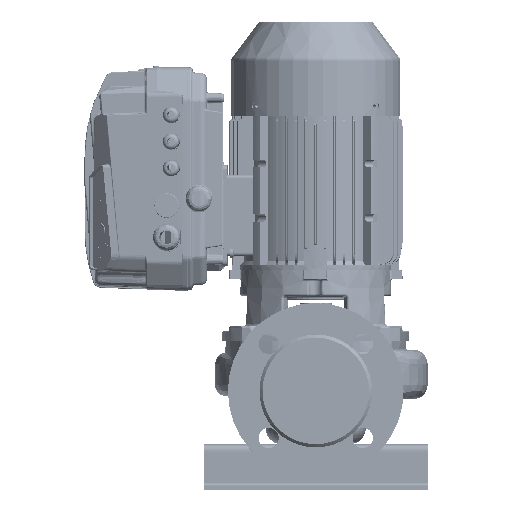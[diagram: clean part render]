
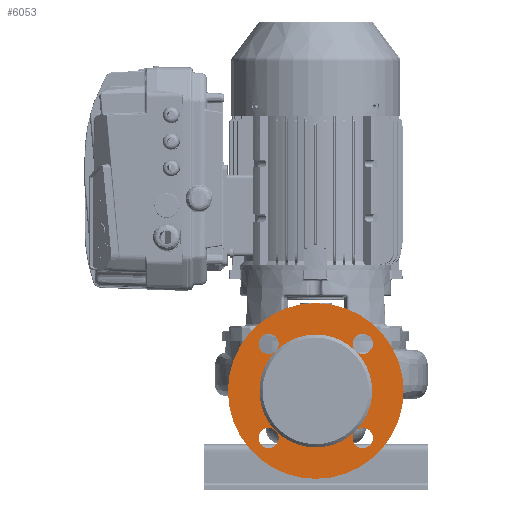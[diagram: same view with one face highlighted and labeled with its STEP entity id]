
A CAD part, front view. The second image highlights one B-rep face of the part: STEP entity #6053.
In plain terms, the highlighted planar face has unit normal (0, -1, 0) as drawn and (0, 1, 0) by its records, which use the part's own axes.
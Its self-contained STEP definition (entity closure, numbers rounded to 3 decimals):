
#6053=ADVANCED_FACE('',(#15201,#15202),#15203,.T.);
#6085=EDGE_CURVE('',#15253,#15254,#15255,.T.);
#6087=EDGE_CURVE('',#15257,#15253,#15258,.T.);
#6089=EDGE_CURVE('',#15260,#15257,#15261,.T.);
#6093=EDGE_CURVE('',#15267,#15268,#15269,.T.);
#6097=EDGE_CURVE('',#15275,#15276,#15277,.T.);
#6101=EDGE_CURVE('',#15283,#15284,#15285,.T.);
#6105=EDGE_CURVE('',#15291,#15292,#15293,.T.);
#6107=EDGE_CURVE('',#15295,#15296,#15297,.T.);
#6247=EDGE_CURVE('',#15296,#15295,#15500,.T.);
#6257=EDGE_CURVE('',#15257,#15291,#15510,.T.);
#6259=EDGE_CURVE('',#15292,#15257,#15512,.T.);
#6261=EDGE_CURVE('',#15253,#15283,#15514,.T.);
#6263=EDGE_CURVE('',#15284,#15253,#15516,.T.);
#6265=EDGE_CURVE('',#15518,#15275,#15519,.T.);
#6267=EDGE_CURVE('',#15276,#15518,#15521,.T.);
#6269=EDGE_CURVE('',#15523,#15267,#15524,.T.);
#6271=EDGE_CURVE('',#15268,#15523,#15526,.T.);
#6273=EDGE_CURVE('',#15254,#15518,#15528,.T.);
#6275=EDGE_CURVE('',#15518,#15523,#15530,.T.);
#6277=EDGE_CURVE('',#15523,#15260,#15532,.T.);
#15201=FACE_OUTER_BOUND('',#31819,.T.);
#15202=FACE_BOUND('',#31820,.T.);
#15203=PLANE('',#31821);
#15253=VERTEX_POINT('',#32882);
#15254=VERTEX_POINT('',#32883);
#15255=CIRCLE('',#32884,53.);
#15257=VERTEX_POINT('',#32887);
#15258=CIRCLE('',#32888,53.);
#15260=VERTEX_POINT('',#32891);
#15261=CIRCLE('',#32892,53.);
#15267=VERTEX_POINT('',#32900);
#15268=VERTEX_POINT('',#32901);
#15269=CIRCLE('',#32902,9.5);
#15275=VERTEX_POINT('',#32910);
#15276=VERTEX_POINT('',#32911);
#15277=CIRCLE('',#32912,9.5);
#15283=VERTEX_POINT('',#32920);
#15284=VERTEX_POINT('',#32921);
#15285=CIRCLE('',#32922,9.5);
#15291=VERTEX_POINT('',#32930);
#15292=VERTEX_POINT('',#32931);
#15293=CIRCLE('',#32932,9.5);
#15295=VERTEX_POINT('',#32935);
#15296=VERTEX_POINT('',#32936);
#15297=CIRCLE('',#32937,82.5);
#15500=CIRCLE('',#33279,82.5);
#15510=CIRCLE('',#33294,9.5);
#15512=CIRCLE('',#33297,9.5);
#15514=CIRCLE('',#33300,9.5);
#15516=CIRCLE('',#33303,9.5);
#15518=VERTEX_POINT('',#33306);
#15519=CIRCLE('',#33307,9.5);
#15521=CIRCLE('',#33310,9.5);
#15523=VERTEX_POINT('',#33313);
#15524=CIRCLE('',#33314,9.5);
#15526=CIRCLE('',#33317,9.5);
#15528=CIRCLE('',#33320,53.);
#15530=CIRCLE('',#33323,53.);
#15532=CIRCLE('',#33326,53.);
#31819=EDGE_LOOP('',(#102213,#102214));
#31820=EDGE_LOOP('',(#102215,#102216,#102217,#102218,#102219,#102220,#102221,#102222,#102223,#102224,#102225,#102226,#102227,#102228,#102229,#102230,#102231,#102232));
#31821=AXIS2_PLACEMENT_3D('',#102233,#102234,#102235);
#32882=CARTESIAN_POINT('',(37.477,137.,21.977));
#32883=CARTESIAN_POINT('',(0.,137.0,37.5));
#32884=AXIS2_PLACEMENT_3D('',#102357,#102358,#102359);
#32887=CARTESIAN_POINT('',(37.477,137.0,-52.977));
#32888=AXIS2_PLACEMENT_3D('',#102360,#102361,#102362);
#32891=CARTESIAN_POINT('',(0.,137.0,-68.5));
#32892=AXIS2_PLACEMENT_3D('',#102363,#102364,#102365);
#32900=CARTESIAN_POINT('',(-49.553,137.0,-51.85));
#32901=CARTESIAN_POINT('',(-38.835,137.0,-67.538));
#32902=AXIS2_PLACEMENT_3D('',#102369,#102370,#102371);
#32910=CARTESIAN_POINT('',(-36.35,137.,34.053));
#32911=CARTESIAN_POINT('',(-52.038,137.,23.335));
#32912=AXIS2_PLACEMENT_3D('',#102375,#102376,#102377);
#32920=CARTESIAN_POINT('',(49.553,137.,20.85));
#32921=CARTESIAN_POINT('',(38.835,137.,36.538));
#32922=AXIS2_PLACEMENT_3D('',#102381,#102382,#102383);
#32930=CARTESIAN_POINT('',(36.35,137.,-65.053));
#32931=CARTESIAN_POINT('',(52.038,137.,-54.335));
#32932=AXIS2_PLACEMENT_3D('',#102387,#102388,#102389);
#32935=CARTESIAN_POINT('',(0.,137.0,-98.));
#32936=CARTESIAN_POINT('',(0.,137.0,67.));
#32937=AXIS2_PLACEMENT_3D('',#102390,#102391,#102392);
#33279=AXIS2_PLACEMENT_3D('',#102574,#102575,#102576);
#33294=AXIS2_PLACEMENT_3D('',#102589,#102590,#102591);
#33297=AXIS2_PLACEMENT_3D('',#102592,#102593,#102594);
#33300=AXIS2_PLACEMENT_3D('',#102595,#102596,#102597);
#33303=AXIS2_PLACEMENT_3D('',#102598,#102599,#102600);
#33306=CARTESIAN_POINT('',(-37.477,137.,21.977));
#33307=AXIS2_PLACEMENT_3D('',#102601,#102602,#102603);
#33310=AXIS2_PLACEMENT_3D('',#102604,#102605,#102606);
#33313=CARTESIAN_POINT('',(-37.477,137.0,-52.977));
#33314=AXIS2_PLACEMENT_3D('',#102607,#102608,#102609);
#33317=AXIS2_PLACEMENT_3D('',#102610,#102611,#102612);
#33320=AXIS2_PLACEMENT_3D('',#102613,#102614,#102615);
#33323=AXIS2_PLACEMENT_3D('',#102616,#102617,#102618);
#33326=AXIS2_PLACEMENT_3D('',#102619,#102620,#102621);
#102213=ORIENTED_EDGE('',*,*,#6247,.F.);
#102214=ORIENTED_EDGE('',*,*,#6107,.F.);
#102215=ORIENTED_EDGE('',*,*,#6085,.T.);
#102216=ORIENTED_EDGE('',*,*,#6273,.T.);
#102217=ORIENTED_EDGE('',*,*,#6265,.T.);
#102218=ORIENTED_EDGE('',*,*,#6097,.T.);
#102219=ORIENTED_EDGE('',*,*,#6267,.T.);
#102220=ORIENTED_EDGE('',*,*,#6275,.T.);
#102221=ORIENTED_EDGE('',*,*,#6269,.T.);
#102222=ORIENTED_EDGE('',*,*,#6093,.T.);
#102223=ORIENTED_EDGE('',*,*,#6271,.T.);
#102224=ORIENTED_EDGE('',*,*,#6277,.T.);
#102225=ORIENTED_EDGE('',*,*,#6089,.T.);
#102226=ORIENTED_EDGE('',*,*,#6257,.T.);
#102227=ORIENTED_EDGE('',*,*,#6105,.T.);
#102228=ORIENTED_EDGE('',*,*,#6259,.T.);
#102229=ORIENTED_EDGE('',*,*,#6087,.T.);
#102230=ORIENTED_EDGE('',*,*,#6261,.T.);
#102231=ORIENTED_EDGE('',*,*,#6101,.T.);
#102232=ORIENTED_EDGE('',*,*,#6263,.T.);
#102233=CARTESIAN_POINT('',(0.,137.0,-83.25));
#102234=DIRECTION('',(0.0,1.0,0.0));
#102235=DIRECTION('',(0.0,0.0,1.0));
#102357=CARTESIAN_POINT('',(0.,137.0,-15.5));
#102358=DIRECTION('',(0.0,-1.0,0.0));
#102359=DIRECTION('',(0.,0.0,-1.0));
#102360=CARTESIAN_POINT('',(0.,137.0,-15.5));
#102361=DIRECTION('',(0.0,-1.0,0.0));
#102362=DIRECTION('',(0.,0.0,-1.0));
#102363=CARTESIAN_POINT('',(0.,137.0,-15.5));
#102364=DIRECTION('',(0.0,-1.0,0.0));
#102365=DIRECTION('',(0.,0.0,-1.0));
#102369=CARTESIAN_POINT('',(-44.194,137.0,-59.694));
#102370=DIRECTION('',(0.0,-1.0,0.0));
#102371=DIRECTION('',(-0.564,0.0,0.826));
#102375=CARTESIAN_POINT('',(-44.194,137.,28.694));
#102376=DIRECTION('',(0.0,-1.0,0.0));
#102377=DIRECTION('',(0.826,0.0,0.564));
#102381=CARTESIAN_POINT('',(44.194,137.,28.694));
#102382=DIRECTION('',(0.0,-1.0,0.0));
#102383=DIRECTION('',(0.564,0.0,-0.826));
#102387=CARTESIAN_POINT('',(44.194,137.,-59.694));
#102388=DIRECTION('',(0.0,-1.0,-0.0));
#102389=DIRECTION('',(-0.826,0.0,-0.564));
#102390=CARTESIAN_POINT('',(0.,137.0,-15.5));
#102391=DIRECTION('',(0.0,-1.0,0.0));
#102392=DIRECTION('',(0.,0.0,-1.0));
#102574=CARTESIAN_POINT('',(0.,137.0,-15.5));
#102575=DIRECTION('',(0.0,-1.0,0.0));
#102576=DIRECTION('',(0.,0.0,-1.0));
#102589=CARTESIAN_POINT('',(44.194,137.,-59.694));
#102590=DIRECTION('',(0.0,-1.0,-0.0));
#102591=DIRECTION('',(-0.826,0.0,-0.564));
#102592=CARTESIAN_POINT('',(44.194,137.,-59.694));
#102593=DIRECTION('',(0.0,-1.0,-0.0));
#102594=DIRECTION('',(-0.826,0.0,-0.564));
#102595=CARTESIAN_POINT('',(44.194,137.,28.694));
#102596=DIRECTION('',(0.0,-1.0,0.0));
#102597=DIRECTION('',(0.564,0.0,-0.826));
#102598=CARTESIAN_POINT('',(44.194,137.,28.694));
#102599=DIRECTION('',(0.0,-1.0,0.0));
#102600=DIRECTION('',(0.564,0.0,-0.826));
#102601=CARTESIAN_POINT('',(-44.194,137.,28.694));
#102602=DIRECTION('',(0.0,-1.0,0.0));
#102603=DIRECTION('',(0.826,0.0,0.564));
#102604=CARTESIAN_POINT('',(-44.194,137.,28.694));
#102605=DIRECTION('',(0.0,-1.0,0.0));
#102606=DIRECTION('',(0.826,0.0,0.564));
#102607=CARTESIAN_POINT('',(-44.194,137.0,-59.694));
#102608=DIRECTION('',(0.0,-1.0,0.0));
#102609=DIRECTION('',(-0.564,0.0,0.826));
#102610=CARTESIAN_POINT('',(-44.194,137.0,-59.694));
#102611=DIRECTION('',(0.0,-1.0,0.0));
#102612=DIRECTION('',(-0.564,0.0,0.826));
#102613=CARTESIAN_POINT('',(0.,137.0,-15.5));
#102614=DIRECTION('',(0.0,-1.0,0.0));
#102615=DIRECTION('',(0.,0.0,-1.0));
#102616=CARTESIAN_POINT('',(0.,137.0,-15.5));
#102617=DIRECTION('',(0.0,-1.0,0.0));
#102618=DIRECTION('',(0.,0.0,-1.0));
#102619=CARTESIAN_POINT('',(0.,137.0,-15.5));
#102620=DIRECTION('',(0.0,-1.0,0.0));
#102621=DIRECTION('',(0.,0.0,-1.0));
